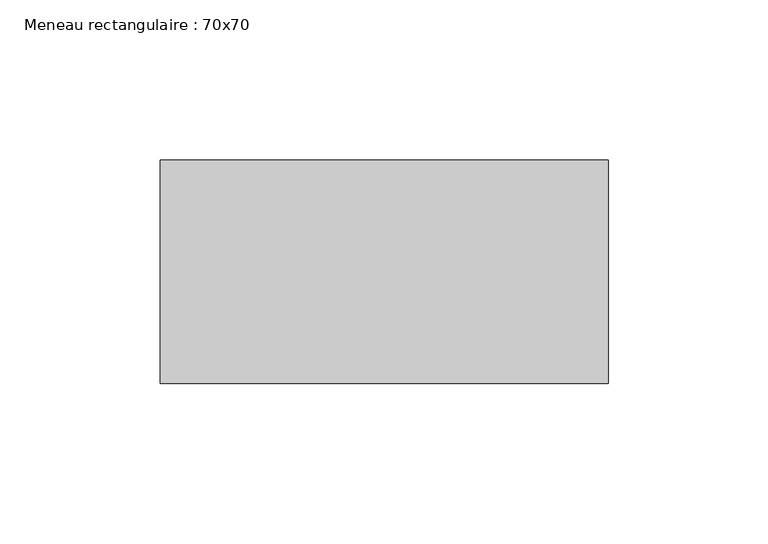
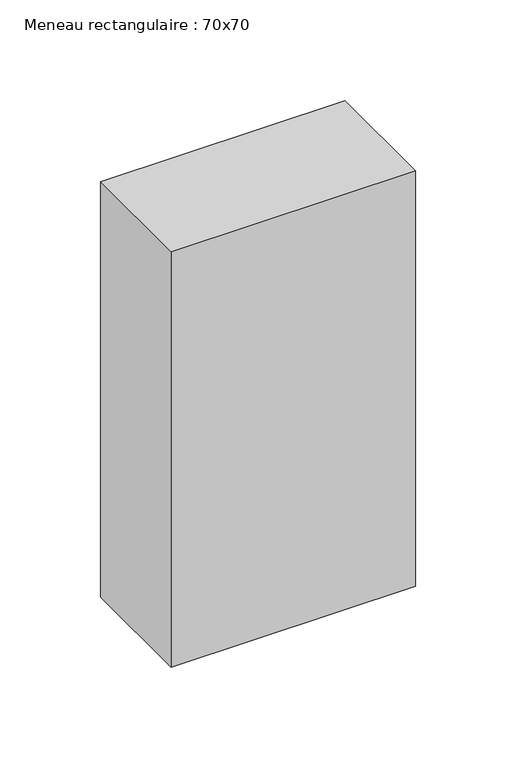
"""IFC4 building model written with IfcOpenShell, lengths in millimetres: member geometry, Meneau rectangulaire : 70x70."""

from ifc_helpers import new_model, si_unit, frame, origin, place, context, project, spatial, polyline, outline, extrude, source, transform, mapped, element, save


def meneau_rectangulaire_70x70_d95c8a19(model_context):
    return source(origin(), model_context, "Body", "SweptSolid", [
        extrude(outline(polyline([(0.0, 55.0), (0.0, -15.0), (-140.0, -15.0), (-140.0, 55.0), (0.0, 55.0)])), frame((0.0, 0.0, -251.7765941), z_axis=(0.0, 0.0, 1.0), x_axis=(1.0, 0.0, 0.0)), (0.0, 0.0, 1.0), 251.7765941),
    ])


if __name__ == "__main__":
    model = new_model("IFC4")
    model_context = context("Model", 3, world=origin())
    ifc_project = project(units=[si_unit("LENGTHUNIT", "METRE", prefix="MILLI")], contexts=[model_context])
    site = spatial("IfcSite", under=ifc_project)
    building = spatial("IfcBuilding", under=site)
    placement = place(None, origin())
    meneau_rectangulaire_70x70_shape = meneau_rectangulaire_70x70_d95c8a19(model_context)
    element("IfcMember", 1, ObjectType="Meneau rectangulaire : 70x70", at=placement, inside=building, context=model_context, shape_type="MappedRepresentation", body=[
        mapped(meneau_rectangulaire_70x70_shape, transform((0.0, 0.0, 0.0), x_axis=(1.0, 0.0, 0.0), y_axis=(0.0, 1.0, 0.0), z_axis=(0.0, 0.0, 1.0))),
    ])
    save(model, "model.ifc")
